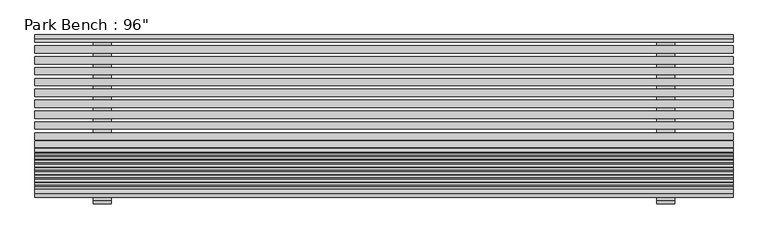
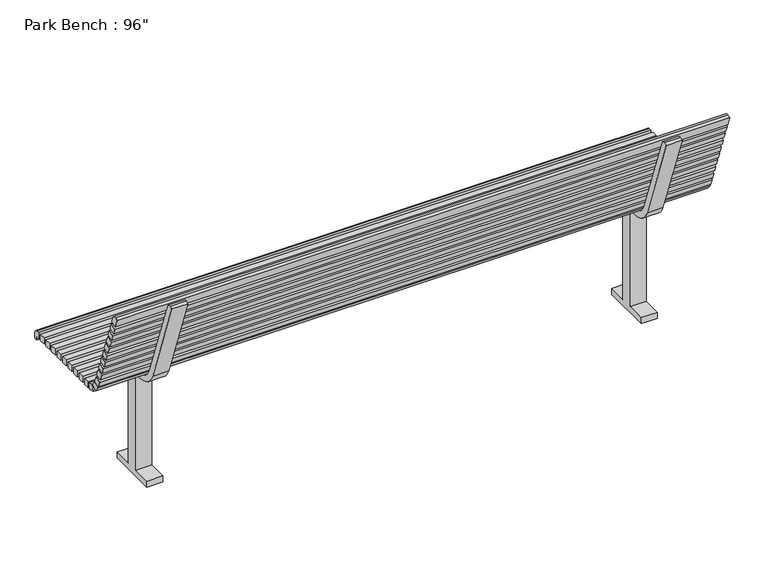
"""IFC4 building model written with IfcOpenShell, lengths in millimetres: geographic element geometry."""

from ifc_helpers import new_model, si_unit, point, frame, frame_2d, origin, place, context, project, spatial, polyline, circle_curve, trimmed, segment, composite_curve, outline, extrude, source, transform, mapped, element, save


def geographic_element_ca5cffeb(model_context):
    return source(origin(), model_context, "Body", "SweptSolid", [
        extrude(outline(polyline([(1219.2, 255.4337104), (-1219.2, 255.4337104), (-1219.2, 280.8337104), (1219.2, 280.8337104), (1219.2, 255.4337104)])), frame((0.0, 0.0, 457.2), z_axis=(0.0, 0.0, 1.0), x_axis=(1.0, 0.0, 0.0)), (0.0, 0.0, 1.0), 25.4),
        extrude(outline(polyline([(1219.2, 217.3337104), (-1219.2, 217.3337104), (-1219.2, 242.7337104), (1219.2, 242.7337104), (1219.2, 217.3337104)])), frame((0.0, 0.0, 457.2), z_axis=(0.0, 0.0, 1.0), x_axis=(1.0, 0.0, 0.0)), (0.0, 0.0, 1.0), 25.4),
        extrude(outline(polyline([(1219.2, 179.2337104), (-1219.2, 179.2337104), (-1219.2, 204.6337104), (1219.2, 204.6337104), (1219.2, 179.2337104)])), frame((0.0, 0.0, 457.2), z_axis=(0.0, 0.0, 1.0), x_axis=(1.0, 0.0, 0.0)), (0.0, 0.0, 1.0), 25.4),
        extrude(outline(polyline([(1219.2, 141.1337104), (-1219.2, 141.1337104), (-1219.2, 166.5337104), (1219.2, 166.5337104), (1219.2, 141.1337104)])), frame((0.0, 0.0, 457.2), z_axis=(0.0, 0.0, 1.0), x_axis=(1.0, 0.0, 0.0)), (0.0, 0.0, 1.0), 25.4),
        extrude(outline(polyline([(1219.2, 103.0337104), (-1219.2, 103.0337104), (-1219.2, 128.4337104), (1219.2, 128.4337104), (1219.2, 103.0337104)])), frame((0.0, 0.0, 457.2), z_axis=(0.0, 0.0, 1.0), x_axis=(1.0, 0.0, 0.0)), (0.0, 0.0, 1.0), 25.4),
        extrude(outline(polyline([(1219.2, 64.9337104), (-1219.2, 64.9337104), (-1219.2, 90.3337104), (1219.2, 90.3337104), (1219.2, 64.9337104)])), frame((0.0, 0.0, 457.2), z_axis=(0.0, 0.0, 1.0), x_axis=(1.0, 0.0, 0.0)), (0.0, 0.0, 1.0), 25.4),
        extrude(outline(polyline([(1219.2, 26.8337104), (-1219.2, 26.8337104), (-1219.2, 52.2337104), (1219.2, 52.2337104), (1219.2, 26.8337104)])), frame((0.0, 0.0, 457.2), z_axis=(0.0, 0.0, 1.0), x_axis=(1.0, 0.0, 0.0)), (0.0, 0.0, 1.0), 25.4),
        extrude(outline(polyline([(1219.2, -11.2662896), (-1219.2, -11.2662896), (-1219.2, 14.1337104), (1219.2, 14.1337104), (1219.2, -11.2662896)])), frame((0.0, 0.0, 457.2), z_axis=(0.0, 0.0, 1.0), x_axis=(1.0, 0.0, 0.0)), (0.0, 0.0, 1.0), 25.4),
        extrude(outline(polyline([(1219.2, -49.3662896), (-1219.2, -49.3662896), (-1219.2, -23.9662896), (1219.2, -23.9662896), (1219.2, -49.3662896)])), frame((0.0, 0.0, 457.2), z_axis=(0.0, 0.0, 1.0), x_axis=(1.0, 0.0, 0.0)), (0.0, 0.0, 1.0), 25.4),
        extrude(outline(composite_curve([segment(polyline([(304.8, 457.2), (293.5337104, 457.2), (293.5337104, 482.6), (304.6462104, 482.6)]), True, "CONTINUOUS"), segment(trimmed(circle_curve(frame_2d((304.6462104, 468.3125)), 14.2875), [point((304.6462104, 482.6))], [point((318.9337104, 468.3125))], False, "CARTESIAN"), True, "CONTINUOUS"), segment(polyline([(318.9337104, 468.3125), (318.9337104, 444.5), (304.8, 444.5), (304.8, 457.2)]), True, "CONTINUOUS")], self_intersect=False)), frame((-1219.2, 0.0, 0.0), z_axis=(1.0, 0.0, 0.0), x_axis=(0.0, 1.0, 0.0)), (0.0, 0.0, 1.0), 2438.4),
        extrude(outline(polyline([(0.0, 25.4), (2438.4, 25.4), (2438.4, 0.0), (0.0, 0.0), (0.0, 25.4)])), frame((1219.2, -121.2738625, 585.5181247), z_axis=(0.0, -0.342020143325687, 0.9396926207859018), x_axis=(-1.0, 0.0, 0.0)), (0.0, 0.0, 1.0), 25.4),
        extrude(outline(polyline([(0.0, 25.4), (2438.4, 25.4), (2438.4, 0.0), (0.0, 0.0), (0.0, 25.4)])), frame((1219.2, -134.30483, 621.3204136), z_axis=(0.0, -0.34202014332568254, 0.9396926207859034), x_axis=(-1.0, 0.0, 0.0)), (0.0, 0.0, 1.0), 25.4),
        extrude(outline(polyline([(0.0, 25.3999999), (2438.4, 25.3999999), (2438.4, 0.0), (0.0, 0.0), (0.0, 25.3999999)])), frame((1219.2, -95.2119276, 513.913547), z_axis=(0.0, -0.34202014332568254, 0.9396926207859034), x_axis=(-1.0, 0.0, 0.0)), (0.0, 0.0, 1.0), 25.4),
        extrude(outline(polyline([(0.0, 25.4000001), (2438.4, 25.4000001), (2438.4, 0.0), (0.0, 0.0), (0.0, 25.4000001)])), frame((1219.2, -108.242895, 549.7158359), z_axis=(0.0, -0.34202014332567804, 0.9396926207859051), x_axis=(-1.0, 0.0, 0.0)), (0.0, 0.0, 1.0), 25.4),
        extrude(outline(polyline([(0.0, 25.4), (2438.4, 25.4), (2438.4, 0.0), (0.0, 0.0), (0.0, 25.4)])), frame((1219.2, -173.3977323, 728.7272801), z_axis=(0.0, -0.34202014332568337, 0.9396926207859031), x_axis=(-1.0, 0.0, 0.0)), (0.0, 0.0, 1.0), 25.4),
        extrude(outline(polyline([(0.0, 25.4000001), (2438.4, 25.4000001), (2438.4, 0.0), (0.0, 0.0), (0.0, 25.4000001)])), frame((1219.2, -186.4286998, 764.529569), z_axis=(0.0, -0.3420201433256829, 0.9396926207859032), x_axis=(-1.0, 0.0, 0.0)), (0.0, 0.0, 1.0), 25.4),
        extrude(outline(polyline([(0.0, 25.4), (2438.4, 25.4), (2438.4, 0.0), (0.0, 0.0), (0.0, 25.4)])), frame((1219.2, -147.3357974, 657.1227024), z_axis=(0.0, -0.3420201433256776, 0.9396926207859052), x_axis=(-1.0, 0.0, 0.0)), (0.0, 0.0, 1.0), 25.4),
        extrude(outline(polyline([(0.0, 25.4), (2438.4, 25.4), (2438.4, 0.0), (0.0, 0.0), (0.0, 25.4)])), frame((1219.2, -160.3667649, 692.9249913), z_axis=(0.0, -0.34202014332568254, 0.9396926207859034), x_axis=(-1.0, 0.0, 0.0)), (0.0, 0.0, 1.0), 25.4),
        extrude(outline(polyline([(0.0, 25.3999999), (2438.4, 25.3999999), (2438.4, 0.0), (0.0, 0.0), (0.0, 25.3999999)])), frame((1219.2, -199.4596673, 800.3318578), z_axis=(0.0, -0.3420201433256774, 0.9396926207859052), x_axis=(-1.0, 0.0, 0.0)), (0.0, 0.0, 1.0), 25.4),
        extrude(outline(composite_curve([segment(polyline([(-249.3897948, 863.2491239), (-237.4556985, 867.5927797)]), True, "CONTINUOUS"), segment(trimmed(circle_curve(frame_2d((-233.1120426, 855.6586834)), 12.7), [point((-237.4556985, 867.5927797))], [point((-221.1779464, 860.0023393))], False, "CARTESIAN"), True, "CONTINUOUS"), segment(polyline([(-221.1779464, 860.0023393), (-212.4906347, 836.1341467), (-236.3588273, 827.4468351), (-249.3897948, 863.2491239)]), True, "CONTINUOUS")], self_intersect=False)), frame((-1219.2, 0.0, 0.0), z_axis=(1.0, 0.0, 0.0), x_axis=(0.0, 1.0, 0.0)), (0.0, 0.0, 1.0), 2438.4),
        extrude(outline(polyline([(0.0, 25.4), (2438.4, 25.4), (2438.4, 0.0), (0.0, 0.0), (0.0, 25.4)])), frame((1219.2, -78.7855779, 490.7267336), z_axis=(0.0, -0.5735764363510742, 0.8191520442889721), x_axis=(-1.0, 0.0, 0.0)), (0.0, 0.0, 1.0), 25.4),
        extrude(outline(polyline([(0.0, 25.4), (2438.4, 25.4), (2438.4, 0.0), (0.0, 0.0), (0.0, 25.4)])), frame((1219.2, -59.0817015, 457.2297909), z_axis=(0.0, 0.2588190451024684, 0.9659258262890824), x_axis=(-1.0, 0.0, 0.0)), (0.0, 0.0, 1.0), 25.4),
        extrude(outline(composite_curve([segment(polyline([(101.6, 25.4), (101.6, 0.0), (-101.6, 0.0), (-101.6, 25.4), (-25.4, 25.4), (-25.4, 431.8), (-57.1368213, 431.8)]), True, "CONTINUOUS"), segment(trimmed(circle_curve(frame_2d((-57.1368213, 520.7)), 88.9), [point((-57.1368213, 431.8))], [point((-140.6754953, 490.2944093))], False, "CARTESIAN"), True, "CONTINUOUS"), segment(polyline([(-140.6754953, 490.2944093), (-273.1524905, 854.271962), (-261.2183942, 858.6156178)]), True, "CONTINUOUS"), segment(trimmed(circle_curve(frame_2d((-256.8747384, 846.6815216)), 12.7), [point((-261.2183942, 858.6156178))], [point((-244.9406421, 851.0251774))], False, "CARTESIAN"), True, "CONTINUOUS"), segment(polyline([(-244.9406421, 851.0251774), (-116.8073027, 498.9817209)]), True, "CONTINUOUS"), segment(trimmed(circle_curve(frame_2d((-57.1368213, 520.7)), 63.5), [point((-116.8073027, 498.9817209))], [point((-57.1368213, 457.2))], True, "CARTESIAN"), True, "CONTINUOUS"), segment(polyline([(-57.1368213, 457.2), (304.8, 457.2), (304.8, 431.8), (25.4, 431.8), (25.4, 25.4), (101.6, 25.4)]), True, "CONTINUOUS")], self_intersect=False)), frame((953.1736591, 0.0, 0.0), z_axis=(1.0, 0.0, 0.0), x_axis=(0.0, 1.0, 0.0)), (0.0, 0.0, 1.0), 62.8263409),
        extrude(outline(composite_curve([segment(polyline([(101.6, 25.4), (101.6, 0.0), (-101.6, 0.0), (-101.6, 25.4), (-25.4, 25.4), (-25.4, 431.8), (-57.1368213, 431.8)]), True, "CONTINUOUS"), segment(trimmed(circle_curve(frame_2d((-57.1368213, 520.7)), 88.9), [point((-57.1368213, 431.8))], [point((-140.6754953, 490.2944093))], False, "CARTESIAN"), True, "CONTINUOUS"), segment(polyline([(-140.6754953, 490.2944093), (-273.1524905, 854.271962), (-261.2183942, 858.6156178)]), True, "CONTINUOUS"), segment(trimmed(circle_curve(frame_2d((-256.8747384, 846.6815216)), 12.7), [point((-261.2183942, 858.6156178))], [point((-244.9406421, 851.0251774))], False, "CARTESIAN"), True, "CONTINUOUS"), segment(polyline([(-244.9406421, 851.0251774), (-116.8073027, 498.9817209)]), True, "CONTINUOUS"), segment(trimmed(circle_curve(frame_2d((-57.1368213, 520.7)), 63.5), [point((-116.8073027, 498.9817209))], [point((-57.1368213, 457.2))], True, "CARTESIAN"), True, "CONTINUOUS"), segment(polyline([(-57.1368213, 457.2), (304.8, 457.2), (304.8, 431.8), (25.4, 431.8), (25.4, 25.4), (101.6, 25.4)]), True, "CONTINUOUS")], self_intersect=False)), frame((-1016.0, 0.0, 0.0), z_axis=(1.0, 0.0, 0.0), x_axis=(0.0, 1.0, 0.0)), (0.0, 0.0, 1.0), 63.8916859),
    ])


if __name__ == "__main__":
    model = new_model("IFC4")
    model_context = context("Model", 3, world=origin())
    ifc_project = project(units=[si_unit("LENGTHUNIT", "METRE", prefix="MILLI")], contexts=[model_context])
    site = spatial("IfcSite", under=ifc_project)
    building = spatial("IfcBuilding", under=site)
    placement = place(None, origin())
    geographic_element_shape = geographic_element_ca5cffeb(model_context)
    element("IfcGeographicElement", 1, ObjectType="Park Bench : 96\"", at=placement, inside=building, context=model_context, shape_type="MappedRepresentation", body=[
        mapped(geographic_element_shape, transform((0.0, 0.0, 0.0), x_axis=(1.0, 0.0, 0.0), y_axis=(0.0, 1.0, 0.0), z_axis=(0.0, 0.0, 1.0))),
    ])
    save(model, "model.ifc")
